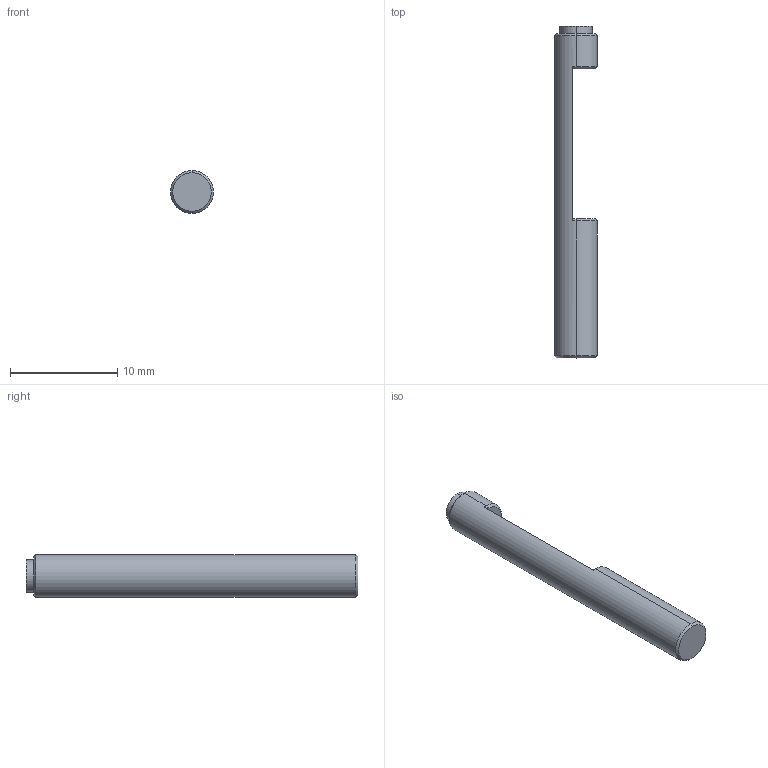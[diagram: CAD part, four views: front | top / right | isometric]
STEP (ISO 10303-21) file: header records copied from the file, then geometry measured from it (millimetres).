
FILE_DESCRIPTION (( 'STEP AP214' ), '1' );
FILE_NAME ('TRL-0040-A.STEP', '2021-06-25T19:11:39', ( '' ), ( '' ), 'SwSTEP 2.0', 'SolidWorks 2016', '' );
FILE_SCHEMA (( 'AUTOMOTIVE_DESIGN' ));
Length unit declared in the file: millimetre
Products named in the file (1): TRL-0040-A
Bounding box: 4 x 31 x 4 mm (x, y, z)
Volume: 224.3 mm3; surface area: 430.8 mm2
Topology: 1 solids, 1 shells, 34 faces, 76 edges, 46 vertices
Faces by surface type: cone 16, cylinder 10, plane 8
Entity records: 990 total; most frequent: DIRECTION 182, CARTESIAN_POINT 169, ORIENTED_EDGE 152, EDGE_CURVE 76, AXIS2_PLACEMENT_3D 75, VERTEX_POINT 46, CIRCLE 40, EDGE_LOOP 38
